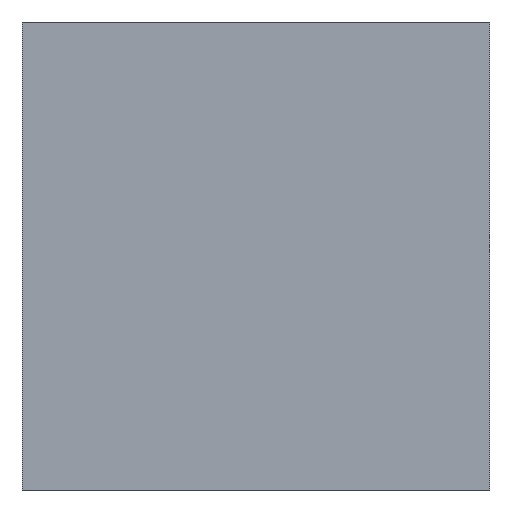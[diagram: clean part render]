
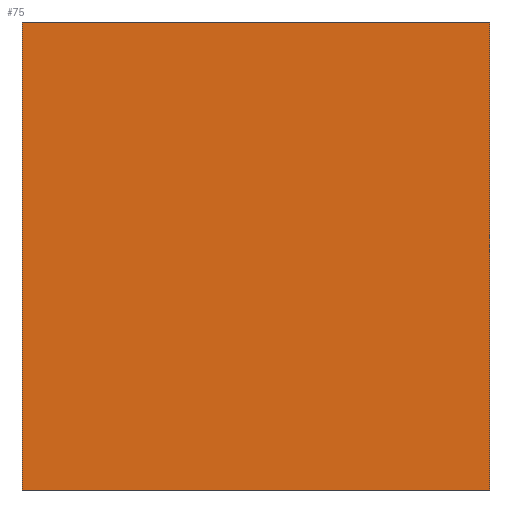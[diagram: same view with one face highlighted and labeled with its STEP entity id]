
A CAD part, front view. The second image highlights one B-rep face of the part: STEP entity #75.
In plain terms, the highlighted planar face has unit normal (0, -1, 0).
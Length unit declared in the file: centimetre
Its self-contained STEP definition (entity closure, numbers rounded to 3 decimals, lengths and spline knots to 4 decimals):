
#75=ADVANCED_FACE('',(#868),#14247,.T.);
#868=FACE_OUTER_BOUND('',#1669,.T.);
#1669=EDGE_LOOP('',(#2558,#2559,#2560,#2561));
#2558=ORIENTED_EDGE('',*,*,#7218,.T.);
#2559=ORIENTED_EDGE('',*,*,#7219,.T.);
#2560=ORIENTED_EDGE('',*,*,#7220,.T.);
#2561=ORIENTED_EDGE('',*,*,#7221,.T.);
#7218=EDGE_CURVE('',#11922,#11923,#11110,.T.);
#7219=EDGE_CURVE('',#11923,#11924,#11111,.T.);
#7220=EDGE_CURVE('',#11924,#11925,#11112,.T.);
#7221=EDGE_CURVE('',#11925,#11922,#11113,.T.);
#11110=B_SPLINE_CURVE_WITH_KNOTS('',1,(#14577,#14578),.UNSPECIFIED.,.F.,
 .F.,(2,2),(0.,1514.7282),.UNSPECIFIED.);
#11111=B_SPLINE_CURVE_WITH_KNOTS('',1,(#14579,#14580),.UNSPECIFIED.,.F.,
 .F.,(2,2),(0.,1514.7282),.UNSPECIFIED.);
#11112=B_SPLINE_CURVE_WITH_KNOTS('',1,(#14581,#14582),.UNSPECIFIED.,.F.,
 .F.,(2,2),(-1514.7282,0.),.UNSPECIFIED.);
#11113=B_SPLINE_CURVE_WITH_KNOTS('',1,(#14583,#14584),.UNSPECIFIED.,.F.,
 .F.,(2,2),(-1514.7282,0.),.UNSPECIFIED.);
#11922=VERTEX_POINT('',#14573);
#11923=VERTEX_POINT('',#14574);
#11924=VERTEX_POINT('',#14575);
#11925=VERTEX_POINT('',#14576);
#14247=PLANE('',#14291);
#14291=AXIS2_PLACEMENT_3D('',#14572,#14319,$);
#14319=DIRECTION('',(0.,-1.,0.));
#14572=CARTESIAN_POINT('',(1344.8435,48.9497,-584.5568));
#14573=CARTESIAN_POINT('',(1344.8435,48.9497,-584.5568));
#14574=CARTESIAN_POINT('',(2924.7731,48.9497,-584.5568));
#14575=CARTESIAN_POINT('',(2924.7731,48.9497,995.3728));
#14576=CARTESIAN_POINT('',(1344.8435,48.9497,995.3728));
#14577=CARTESIAN_POINT('',(1344.8435,48.9497,-584.5568));
#14578=CARTESIAN_POINT('',(2924.7731,48.9497,-584.5568));
#14579=CARTESIAN_POINT('',(2924.7731,48.9497,-584.5568));
#14580=CARTESIAN_POINT('',(2924.7731,48.9497,995.3728));
#14581=CARTESIAN_POINT('',(2924.7731,48.9497,995.3728));
#14582=CARTESIAN_POINT('',(1344.8435,48.9497,995.3728));
#14583=CARTESIAN_POINT('',(1344.8435,48.9497,995.3728));
#14584=CARTESIAN_POINT('',(1344.8435,48.9497,-584.5568));
